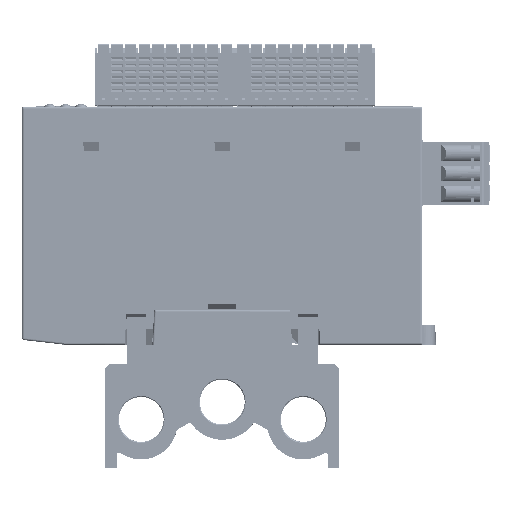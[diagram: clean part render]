
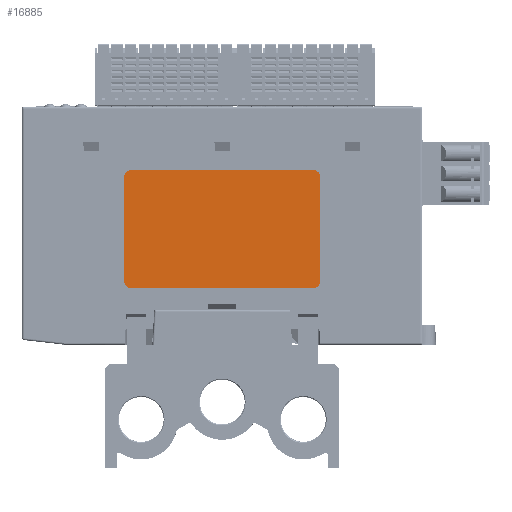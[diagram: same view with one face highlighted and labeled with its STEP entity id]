
A CAD part, front view. The second image highlights one B-rep face of the part: STEP entity #16885.
In plain terms, the highlighted planar face has unit normal (0, -1, 0).
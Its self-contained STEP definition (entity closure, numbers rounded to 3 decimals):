
#7443=FACE_OUTER_BOUND('',#71668,.T.);
#16885=ADVANCED_FACE('',(#7443),#26573,.F.);
#26573=PLANE('',#181900);
#34295=LINE('',#252863,#52456);
#34299=LINE('',#252871,#52460);
#34301=LINE('',#252875,#52462);
#34304=LINE('',#252883,#52465);
#52456=VECTOR('',#199530,1.);
#52460=VECTOR('',#199536,1.);
#52462=VECTOR('',#199540,1.);
#52465=VECTOR('',#199547,1.);
#71668=EDGE_LOOP('',(#85265,#85266,#85267,#85268,#85269,#85270,#85271,#85272));
#85265=ORIENTED_EDGE('',*,*,#152733,.F.);
#85266=ORIENTED_EDGE('',*,*,#152738,.T.);
#85267=ORIENTED_EDGE('',*,*,#152739,.F.);
#85268=ORIENTED_EDGE('',*,*,#152740,.T.);
#85269=ORIENTED_EDGE('',*,*,#152735,.F.);
#85270=ORIENTED_EDGE('',*,*,#152741,.T.);
#85271=ORIENTED_EDGE('',*,*,#152729,.F.);
#85272=ORIENTED_EDGE('',*,*,#152742,.T.);
#135373=VERTEX_POINT('',#252864);
#135374=VERTEX_POINT('',#252865);
#135375=VERTEX_POINT('',#252870);
#135376=VERTEX_POINT('',#252872);
#135377=VERTEX_POINT('',#252876);
#135378=VERTEX_POINT('',#252877);
#135379=VERTEX_POINT('',#252882);
#135380=VERTEX_POINT('',#252884);
#152729=EDGE_CURVE('',#135373,#135374,#34295,.T.);
#152733=EDGE_CURVE('',#135375,#135376,#34299,.T.);
#152735=EDGE_CURVE('',#135377,#135378,#34301,.T.);
#152738=EDGE_CURVE('',#135375,#135379,#176573,.T.);
#152739=EDGE_CURVE('',#135380,#135379,#34304,.T.);
#152740=EDGE_CURVE('',#135380,#135378,#176574,.T.);
#152741=EDGE_CURVE('',#135377,#135374,#176575,.T.);
#152742=EDGE_CURVE('',#135373,#135376,#176576,.T.);
#176573=CIRCLE('',#181896,1.8);
#176574=CIRCLE('',#181897,1.8);
#176575=CIRCLE('',#181898,1.8);
#176576=CIRCLE('',#181899,1.8);
#181896=AXIS2_PLACEMENT_3D('',#252881,#199545,#199546);
#181897=AXIS2_PLACEMENT_3D('',#252885,#199548,#199549);
#181898=AXIS2_PLACEMENT_3D('',#252886,#199550,#199551);
#181899=AXIS2_PLACEMENT_3D('',#252887,#199552,#199553);
#181900=AXIS2_PLACEMENT_3D('',#252888,#199554,#199555);
#199530=DIRECTION('',(0.,0.,-1.));
#199536=DIRECTION('',(1.,0.,0.));
#199540=DIRECTION('',(-1.,0.,0.));
#199545=DIRECTION('',(0.,-1.,0.));
#199546=DIRECTION('',(0.,0.,1.));
#199547=DIRECTION('',(0.,0.,1.));
#199548=DIRECTION('',(0.,-1.,0.));
#199549=DIRECTION('',(0.,0.,-1.));
#199550=DIRECTION('',(0.,-1.,0.));
#199551=DIRECTION('',(0.,0.,-1.));
#199552=DIRECTION('',(0.,-1.,0.));
#199553=DIRECTION('',(0.,0.,-1.));
#199554=DIRECTION('',(0.,1.,0.));
#199555=DIRECTION('',(0.,0.,-1.));
#252863=CARTESIAN_POINT('',(725.15,-102.64,34.634));
#252864=CARTESIAN_POINT('',(725.15,-102.64,47.934));
#252865=CARTESIAN_POINT('',(725.15,-102.64,21.334));
#252870=CARTESIAN_POINT('',(676.75,-102.64,49.734));
#252871=CARTESIAN_POINT('',(700.05,-102.64,49.734));
#252872=CARTESIAN_POINT('',(723.35,-102.64,49.734));
#252875=CARTESIAN_POINT('',(675.05,-102.64,19.534));
#252876=CARTESIAN_POINT('',(723.35,-102.64,19.534));
#252877=CARTESIAN_POINT('',(676.75,-102.64,19.534));
#252881=CARTESIAN_POINT('',(676.75,-102.64,47.934));
#252882=CARTESIAN_POINT('',(674.95,-102.64,47.934));
#252883=CARTESIAN_POINT('',(674.95,-102.64,34.634));
#252884=CARTESIAN_POINT('',(674.95,-102.64,21.334));
#252885=CARTESIAN_POINT('',(676.75,-102.64,21.334));
#252886=CARTESIAN_POINT('',(723.35,-102.64,21.334));
#252887=CARTESIAN_POINT('',(723.35,-102.64,47.934));
#252888=CARTESIAN_POINT('',(700.041,-102.64,23.341));
